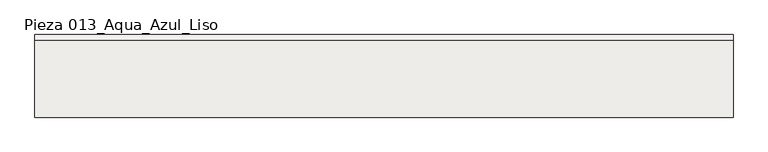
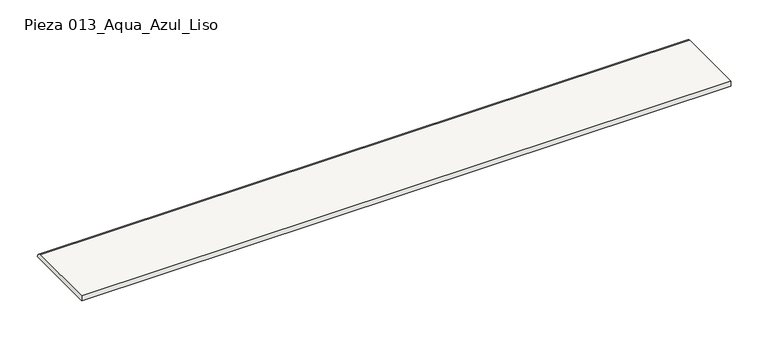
"""IFC4 building model written with IfcOpenShell, lengths in millimetres: slab geometry, ROSA GRES_013 : Pieza 013_Aqua_Azul_Liso."""

import ifcopenshell
import ifcopenshell.guid

model = None  # the IFC model being written
_history = None  # IfcOwnerHistory: only IFC2X3 demands one
_inside = {}  # id of a spatial element -> (the spatial element, [elements in it])
_under = {}  # id of a project, library or spatial element -> (it, [spatial elements below it])
_declared = {}  # id of a project -> (the project, [libraries it declares])
_typed = {}  # id of a type object -> (the type object, [elements of that type])
_made_of = {}  # id of a material, layer set ... -> (it, [elements and type objects made of it])


def new_model(schema):
    """Start an empty IFC model of exactly this schema.

    Asked for "IFC4X3", IfcOpenShell would pick the latest addendum, in which some entities
    have other attributes; the version numbers below select the first issue.
    IFC2X3 requires an IfcOwnerHistory on every rooted entity: one is made here for all.
    """
    global model, _history
    if schema == "IFC4X3":
        model = ifcopenshell.file(schema_version=(4, 3, 0, 0))
    else:
        model = ifcopenshell.file(schema=schema)
    _inside.clear()
    _under.clear()
    _declared.clear()
    _typed.clear()
    _made_of.clear()
    _history = None
    if model.schema == "IFC2X3":
        org = make("IfcOrganization", Name="unknown")
        user = make(
            "IfcPersonAndOrganization",
            ThePerson=make("IfcPerson", FamilyName="unknown"),
            TheOrganization=org,
        )
        app = make(
            "IfcApplication",
            ApplicationDeveloper=org,
            Version="unknown",
            ApplicationFullName="unknown",
            ApplicationIdentifier="unknown",
        )
        _history = make(
            "IfcOwnerHistory",
            OwningUser=user,
            OwningApplication=app,
            ChangeAction="ADDED",
            CreationDate=0,
        )
    return model


def make(cls, **values):
    """One entity of the class cls with the attributes given. An attribute that is None is left unset."""
    return model.create_entity(
        cls, **{name: value for name, value in values.items() if value is not None}
    )


def rooted(cls, **values):
    """An entity with a GlobalId (a new one), such as an element, a storey or a relation."""
    return make(cls, GlobalId=ifcopenshell.guid.new(), OwnerHistory=_history, **values)


def si_unit(unit_type, name, prefix=None):
    """IfcSIUnit, for example si_unit("LENGTHUNIT", "METRE", prefix="MILLI")."""
    return make("IfcSIUnit", UnitType=unit_type, Prefix=prefix, Name=name)


def assignment(units):
    """IfcUnitAssignment: the units of a project."""
    return None if units is None else make("IfcUnitAssignment", Units=units)


def point(xyz):
    """IfcCartesianPoint."""
    return None if xyz is None else make("IfcCartesianPoint", Coordinates=xyz)


def direction(xyz):
    """IfcDirection."""
    return None if xyz is None else make("IfcDirection", DirectionRatios=xyz)


def frame(location, z_axis=None, x_axis=None):
    """IfcAxis2Placement3D, a coordinate frame: its origin and axes. An axis left out is left unset."""
    return make(
        "IfcAxis2Placement3D",
        Location=point(location),
        Axis=direction(z_axis),
        RefDirection=direction(x_axis),
    )


def frame_2d(location, x_axis=None):
    """IfcAxis2Placement2D, a coordinate frame in the plane: its origin and x axis."""
    return make(
        "IfcAxis2Placement2D", Location=point(location), RefDirection=direction(x_axis)
    )


def origin():
    """The frame at (0, 0, 0) with its axes left unset."""
    return frame((0.0, 0.0, 0.0))


def place(relative_to, where):
    """IfcLocalPlacement: puts the frame where relative to a parent placement (None: the world)."""
    return make(
        "IfcLocalPlacement", PlacementRelTo=relative_to, RelativePlacement=where
    )


def context(
    kind, dimensions, precision=None, world=None, true_north=None, identifier=None
):
    """IfcGeometricRepresentationContext, for example the 3D "Model" context."""
    return make(
        "IfcGeometricRepresentationContext",
        ContextIdentifier=identifier,
        ContextType=kind,
        CoordinateSpaceDimension=dimensions,
        Precision=precision,
        WorldCoordinateSystem=world,
        TrueNorth=true_north,
    )


def project(units=None, contexts=None):
    """IfcProject with its units and contexts."""
    return rooted(
        "IfcProject",
        Name="project",
        RepresentationContexts=contexts,
        UnitsInContext=assignment(units),
    )


def spatial(cls, under=None, at=None, **own):
    """A site, building, storey or space (cls), placed at a placement, below another one or the project."""
    s = rooted(cls, ObjectPlacement=at, **own)
    if under is not None:
        _under.setdefault(under.id(), (under, []))[1].append(s)
    return s


def polyline(points):
    """IfcPolyline through the points."""
    return make("IfcPolyline", Points=[point(p) for p in points])


def circle_curve(where, radius):
    """IfcCircle in the frame where."""
    return make("IfcCircle", Position=where, Radius=radius)


def trimmed(basis, trim1, trim2, sense, master):
    """IfcTrimmedCurve: the piece of a basis curve between two trims."""
    return make(
        "IfcTrimmedCurve",
        BasisCurve=basis,
        Trim1=trim1,
        Trim2=trim2,
        SenseAgreement=sense,
        MasterRepresentation=master,
    )


def segment(curve, same_sense, transition):
    """IfcCompositeCurveSegment."""
    return make(
        "IfcCompositeCurveSegment",
        Transition=transition,
        SameSense=same_sense,
        ParentCurve=curve,
    )


def composite_curve(segments, self_intersect=None):
    """IfcCompositeCurve: segments joined end to end."""
    return make("IfcCompositeCurve", Segments=segments, SelfIntersect=self_intersect)


def outline(outer, holes=None, kind="AREA"):
    """IfcArbitraryClosedProfileDef: a profile drawn as a closed curve; with holes, ...WithVoids."""
    if holes is None:
        return make("IfcArbitraryClosedProfileDef", ProfileType=kind, OuterCurve=outer)
    return make(
        "IfcArbitraryProfileDefWithVoids",
        ProfileType=kind,
        OuterCurve=outer,
        InnerCurves=holes,
    )


def extrude(swept, where, along, depth):
    """IfcExtrudedAreaSolid: the profile swept, set in the frame where, extruded along a direction by depth."""
    return make(
        "IfcExtrudedAreaSolid",
        SweptArea=swept,
        Position=where,
        ExtrudedDirection=direction(along),
        Depth=depth,
    )


def shape(context_of_items, identifier, shape_type, items):
    """IfcShapeRepresentation: the items that make up one representation, for example the "Body"."""
    return make(
        "IfcShapeRepresentation",
        ContextOfItems=context_of_items,
        RepresentationIdentifier=identifier,
        RepresentationType=shape_type,
        Items=items,
    )


def source(mapping_origin, context_of_items, identifier, shape_type, items):
    """IfcRepresentationMap: a shape defined once, which mapped items show again and again."""
    return make(
        "IfcRepresentationMap",
        MappingOrigin=mapping_origin,
        MappedRepresentation=shape(context_of_items, identifier, shape_type, items),
    )


def transform(
    local_origin,
    x_axis=None,
    y_axis=None,
    z_axis=None,
    scale=None,
    scale2=None,
    scale3=None,
    uniform=True,
):
    """IfcCartesianTransformationOperator3D, or its non-uniform kind. x_axis, y_axis, z_axis: its Axis1, 2, 3."""
    if uniform:
        return make(
            "IfcCartesianTransformationOperator3D",
            Axis1=direction(x_axis),
            Axis2=direction(y_axis),
            LocalOrigin=point(local_origin),
            Scale=scale,
            Axis3=direction(z_axis),
        )
    return make(
        "IfcCartesianTransformationOperator3DnonUniform",
        Axis1=direction(x_axis),
        Axis2=direction(y_axis),
        LocalOrigin=point(local_origin),
        Scale=scale,
        Axis3=direction(z_axis),
        Scale2=scale2,
        Scale3=scale3,
    )


def mapped(mapping_source, mapping_target):
    """IfcMappedItem: shows the shape of a source again, moved by a transform."""
    return make(
        "IfcMappedItem", MappingSource=mapping_source, MappingTarget=mapping_target
    )


def made_of(thing, what):
    """Note that an element or type object is made of a material, layer set ...; save() writes the relation."""
    if what is not None:
        _made_of.setdefault(what.id(), (what, []))[1].append(thing)
    return thing


def element(
    cls,
    number,
    at=None,
    inside=None,
    cuts=None,
    type_object=None,
    material=None,
    context=None,
    identifier="Body",
    shape_type=None,
    held_by="IfcProductDefinitionShape",
    body=None,
    shapes=None,
    **own,
):
    """One element of the class cls, such as IfcWall. Its Tag is "e" and its number.

    at: its placement. inside: the storey or other place that contains it. cuts: it is an
    opening in that element (IfcRelVoidsElement). A single representation is given by context,
    identifier, shape_type and body (its items); several are given by shapes. held_by: the class
    of the entity that holds the representations. save() writes the other relations.
    """
    e = rooted(cls, Tag="e%d" % number, ObjectPlacement=at, **own)
    if body is not None:
        shapes = [shape(context, identifier, shape_type, body)]
    if shapes is not None:
        e.Representation = make(held_by, Representations=shapes)
    if inside is not None:
        _inside.setdefault(inside.id(), (inside, []))[1].append(e)
    if cuts is not None:
        rooted(
            "IfcRelVoidsElement", RelatingBuildingElement=cuts, RelatedOpeningElement=e
        )
    if type_object is not None:
        _typed.setdefault(type_object.id(), (type_object, []))[1].append(e)
    return made_of(e, material)


def aggregate(whole, parts):
    """IfcRelAggregates: a whole, such as a stair, and the parts it consists of."""
    return rooted("IfcRelAggregates", RelatingObject=whole, RelatedObjects=parts)


def save(model, path):
    """Write the relations noted so far, then the file.

    IfcRelAggregates (storeys below a building ...), IfcRelContainedInSpatialStructure (elements
    in a storey), IfcRelDefinesByType, IfcRelAssociatesMaterial and IfcRelDeclares: one each for
    every whole, place, type object, material and project.
    """
    for whole, parts in _under.values():
        aggregate(whole, parts)
    for where, things in _inside.values():
        rooted(
            "IfcRelContainedInSpatialStructure",
            RelatedElements=things,
            RelatingStructure=where,
        )
    for kind, things in _typed.values():
        rooted("IfcRelDefinesByType", RelatedObjects=things, RelatingType=kind)
    for what, things in _made_of.values():
        rooted("IfcRelAssociatesMaterial", RelatedObjects=things, RelatingMaterial=what)
    for by, libraries in _declared.values():
        rooted("IfcRelDeclares", RelatingContext=by, RelatedDefinitions=libraries)
    model.write(path)


def pieza_013_aqua_azul_liso_43577704(model_context):
    return source(origin(), model_context, "Body", "SweptSolid", [
        extrude(outline(composite_curve([segment(polyline([(-0.7830162, 0.0), (-119.0, 0.0), (-119.0, 8.0), (-8.3571586, 8.0)]), True, "CONTINUOUS"), segment(trimmed(circle_curve(frame_2d((-9.4741171, -1.740645)), 9.8044766), [point((-8.3571586, 8.0))], [point((0.0, 0.7830162))], False, "CARTESIAN"), True, "CONTINUOUS"), segment(polyline([(0.0, 0.7830162), (-0.7830162, 0.0)]), True, "CONTINUOUS")], self_intersect=False)), frame((0.0, 0.0, 0.0), z_axis=(1.0, 0.0, 0.0), x_axis=(0.0, 1.0, 0.0)), (0.0, 0.0, 1.0), 1005.8485823),
    ])


if __name__ == "__main__":
    model = new_model("IFC4")
    model_context = context("Model", 3, world=origin())
    ifc_project = project(units=[si_unit("LENGTHUNIT", "METRE", prefix="MILLI")], contexts=[model_context])
    site = spatial("IfcSite", under=ifc_project)
    building = spatial("IfcBuilding", under=site)
    placement = place(None, origin())
    pieza_013_aqua_azul_liso_shape = pieza_013_aqua_azul_liso_43577704(model_context)
    element("IfcSlab", 1, ObjectType="ROSA GRES_013 : Pieza 013_Aqua_Azul_Liso", at=placement, inside=building, context=model_context, shape_type="MappedRepresentation", body=[
        mapped(pieza_013_aqua_azul_liso_shape, transform((0.0, 0.0, 0.0), x_axis=(1.0, 0.0, 0.0), y_axis=(0.0, 1.0, 0.0), z_axis=(0.0, 0.0, 1.0))),
    ])
    save(model, "model.ifc")
